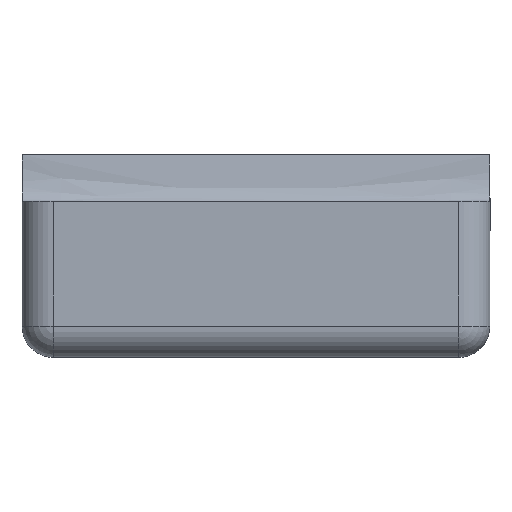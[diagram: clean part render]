
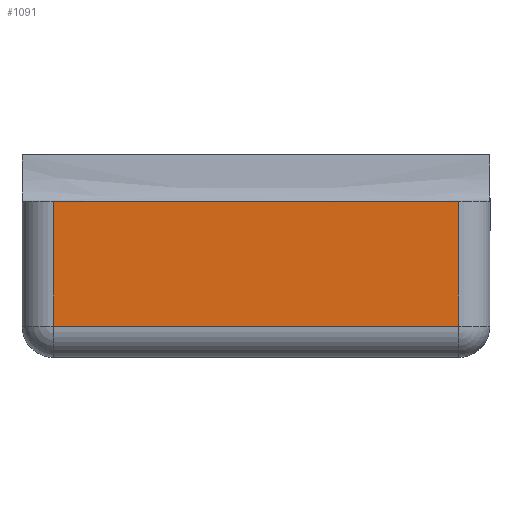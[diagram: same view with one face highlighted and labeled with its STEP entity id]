
A CAD part, front view. The second image highlights one B-rep face of the part: STEP entity #1091.
In plain terms, the highlighted planar face has unit normal (0, -1, 0).
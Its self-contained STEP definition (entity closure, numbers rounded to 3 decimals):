
#229 = DIRECTION ( 'NONE',  ( 0., 0., -1. ) ) ;
#237 = ORIENTED_EDGE ( 'NONE', *, *, #2221, .T. ) ;
#324 = FACE_OUTER_BOUND ( 'NONE', #1113, .T. ) ;
#376 = LINE ( 'NONE', #1824, #940 ) ;
#415 = LINE ( 'NONE', #1855, #2004 ) ;
#416 = DIRECTION ( 'NONE',  ( 1., 0., 0. ) ) ;
#440 = CARTESIAN_POINT ( 'NONE',  ( -13., -19., 8. ) ) ;
#461 = AXIS2_PLACEMENT_3D ( 'NONE', #1447, #2153, #416 ) ;
#515 = VERTEX_POINT ( 'NONE', #1305 ) ;
#650 = CARTESIAN_POINT ( 'NONE',  ( 13., -19., 10. ) ) ;
#654 = EDGE_CURVE ( 'NONE', #515, #1659, #415, .T. ) ;
#674 = EDGE_CURVE ( 'NONE', #969, #1598, #376, .T. ) ;
#803 = DIRECTION ( 'NONE',  ( 1., 0., 0. ) ) ;
#855 = VECTOR ( 'NONE', #1132, 1000. ) ;
#940 = VECTOR ( 'NONE', #803, 1000. ) ;
#969 = VERTEX_POINT ( 'NONE', #1250 ) ;
#972 = CARTESIAN_POINT ( 'NONE',  ( 13., -19., 2. ) ) ;
#1089 = ORIENTED_EDGE ( 'NONE', *, *, #654, .F. ) ;
#1091 = ADVANCED_FACE ( 'NONE', ( #324 ), #1807, .T. ) ;
#1113 = EDGE_LOOP ( 'NONE', ( #1449, #1464, #237, #1089 ) ) ;
#1123 = CARTESIAN_POINT ( 'NONE',  ( 13., -19., 8. ) ) ;
#1132 = DIRECTION ( 'NONE',  ( 0., 0., 1. ) ) ;
#1250 = CARTESIAN_POINT ( 'NONE',  ( -13., -19., 2. ) ) ;
#1305 = CARTESIAN_POINT ( 'NONE',  ( -13., -19., 10. ) ) ;
#1447 = CARTESIAN_POINT ( 'NONE',  ( 15., -19., 8. ) ) ;
#1449 = ORIENTED_EDGE ( 'NONE', *, *, #1927, .T. ) ;
#1464 = ORIENTED_EDGE ( 'NONE', *, *, #674, .T. ) ;
#1598 = VERTEX_POINT ( 'NONE', #972 ) ;
#1599 = LINE ( 'NONE', #1123, #855 ) ;
#1627 = VECTOR ( 'NONE', #229, 1000. ) ;
#1659 = VERTEX_POINT ( 'NONE', #650 ) ;
#1807 = PLANE ( 'NONE',  #461 ) ;
#1824 = CARTESIAN_POINT ( 'NONE',  ( 13., -19., 2. ) ) ;
#1855 = CARTESIAN_POINT ( 'NONE',  ( 13., -19., 10. ) ) ;
#1927 = EDGE_CURVE ( 'NONE', #515, #969, #2096, .T. ) ;
#2004 = VECTOR ( 'NONE', #2036, 1000. ) ;
#2036 = DIRECTION ( 'NONE',  ( 1., 0., 0. ) ) ;
#2096 = LINE ( 'NONE', #440, #1627 ) ;
#2153 = DIRECTION ( 'NONE',  ( 0., -1., 0. ) ) ;
#2221 = EDGE_CURVE ( 'NONE', #1598, #1659, #1599, .T. ) ;
